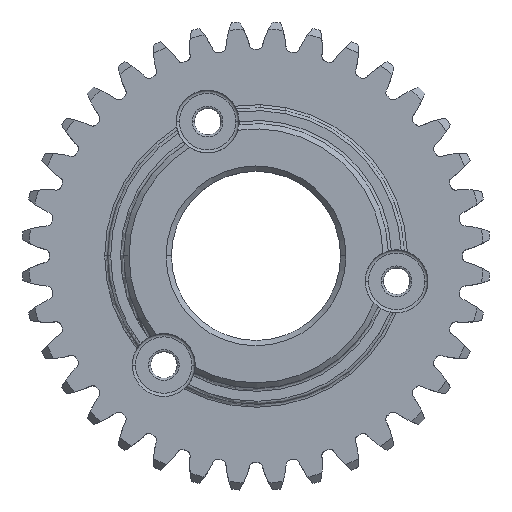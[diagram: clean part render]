
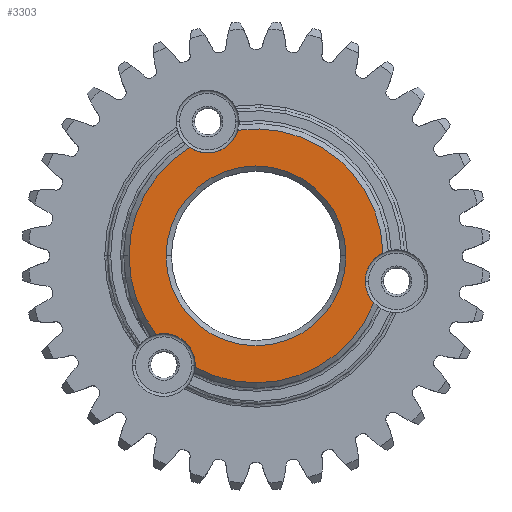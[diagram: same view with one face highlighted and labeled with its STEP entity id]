
A CAD part, top view. The second image highlights one B-rep face of the part: STEP entity #3303.
In plain terms, the highlighted planar face has unit normal (0, 0, 1).
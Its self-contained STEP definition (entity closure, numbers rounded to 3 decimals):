
#145 = CARTESIAN_POINT ( 'NONE',  ( 13.286, -2.393, 14. ) ) ;
#203 = DIRECTION ( 'NONE',  ( 1., 0., 0. ) ) ;
#295 = CIRCLE ( 'NONE', #3236, 2.97 ) ;
#572 = ORIENTED_EDGE ( 'NONE', *, *, #3615, .T. ) ;
#859 = DIRECTION ( 'NONE',  ( 1., 0., 0. ) ) ;
#1204 = CARTESIAN_POINT ( 'NONE',  ( 8.5, 0., 14. ) ) ;
#1549 = DIRECTION ( 'NONE',  ( 1., 0., 0. ) ) ;
#1596 = DIRECTION ( 'NONE',  ( 1., 0., 0. ) ) ;
#2346 = AXIS2_PLACEMENT_3D ( 'NONE', #3855, #12304, #8716 ) ;
#2402 = DIRECTION ( 'NONE',  ( 0., 0., 1. ) ) ;
#2424 = AXIS2_PLACEMENT_3D ( 'NONE', #10329, #11493, #8023 ) ;
#2507 = VERTEX_POINT ( 'NONE', #6823 ) ;
#2606 = CARTESIAN_POINT ( 'NONE',  ( 11.997, 0.281, 14. ) ) ;
#2630 = DIRECTION ( 'NONE',  ( 0., 0., -1. ) ) ;
#2869 = VERTEX_POINT ( 'NONE', #2606 ) ;
#2993 = CARTESIAN_POINT ( 'NONE',  ( 0., 0., 14. ) ) ;
#3236 = AXIS2_PLACEMENT_3D ( 'NONE', #145, #2402, #12114 ) ;
#3266 = DIRECTION ( 'NONE',  ( 0., 0., 1. ) ) ;
#3303 = ADVANCED_FACE ( 'NONE', ( #15495, #12283 ), #8876, .T. ) ;
#3325 = EDGE_CURVE ( 'NONE', #15564, #11358, #5836, .T. ) ;
#3530 = ORIENTED_EDGE ( 'NONE', *, *, #13022, .T. ) ;
#3615 = EDGE_CURVE ( 'NONE', #13140, #13195, #6601, .T. ) ;
#3855 = CARTESIAN_POINT ( 'NONE',  ( -8.716, -10.309, 14. ) ) ;
#3873 = VERTEX_POINT ( 'NONE', #6213 ) ;
#3893 = CARTESIAN_POINT ( 'NONE',  ( 13.286, -2.393, 14. ) ) ;
#3924 = DIRECTION ( 'NONE',  ( 1., 0., 0. ) ) ;
#4039 = ORIENTED_EDGE ( 'NONE', *, *, #7742, .F. ) ;
#4088 = AXIS2_PLACEMENT_3D ( 'NONE', #2993, #11294, #14974 ) ;
#4385 = DIRECTION ( 'NONE',  ( 1., 0., 0. ) ) ;
#4796 = CIRCLE ( 'NONE', #6790, 2.97 ) ;
#5089 = DIRECTION ( 'NONE',  ( 0., 0., 1. ) ) ;
#5199 = DIRECTION ( 'NONE',  ( 1., 0., 0. ) ) ;
#5603 = VERTEX_POINT ( 'NONE', #11488 ) ;
#5836 = CIRCLE ( 'NONE', #8084, 12. ) ;
#5960 = VERTEX_POINT ( 'NONE', #14640 ) ;
#6118 = CARTESIAN_POINT ( 'NONE',  ( 0., 0., 14. ) ) ;
#6156 = CIRCLE ( 'NONE', #2346, 2.97 ) ;
#6213 = CARTESIAN_POINT ( 'NONE',  ( -1.718, 11.876, 14. ) ) ;
#6250 = AXIS2_PLACEMENT_3D ( 'NONE', #7152, #8100, #859 ) ;
#6427 = AXIS2_PLACEMENT_3D ( 'NONE', #3893, #12335, #9684 ) ;
#6513 = ORIENTED_EDGE ( 'NONE', *, *, #7479, .T. ) ;
#6538 = ORIENTED_EDGE ( 'NONE', *, *, #3325, .T. ) ;
#6601 = CIRCLE ( 'NONE', #6250, 8.5 ) ;
#6679 = ORIENTED_EDGE ( 'NONE', *, *, #8728, .T. ) ;
#6790 = AXIS2_PLACEMENT_3D ( 'NONE', #6925, #3266, #4385 ) ;
#6823 = CARTESIAN_POINT ( 'NONE',  ( -12., 0., 14. ) ) ;
#6829 = ORIENTED_EDGE ( 'NONE', *, *, #11109, .F. ) ;
#6925 = CARTESIAN_POINT ( 'NONE',  ( -4.57, 12.703, 14. ) ) ;
#7152 = CARTESIAN_POINT ( 'NONE',  ( 0., 0., 14. ) ) ;
#7279 = AXIS2_PLACEMENT_3D ( 'NONE', #14929, #7678, #3924 ) ;
#7400 = VERTEX_POINT ( 'NONE', #13843 ) ;
#7470 = CIRCLE ( 'NONE', #15387, 2.97 ) ;
#7479 = EDGE_CURVE ( 'NONE', #2869, #3873, #15044, .T. ) ;
#7678 = DIRECTION ( 'NONE',  ( 0., 0., 1. ) ) ;
#7738 = CARTESIAN_POINT ( 'NONE',  ( -5.755, -10.53, 14. ) ) ;
#7742 = EDGE_CURVE ( 'NONE', #2869, #5960, #295, .T. ) ;
#8023 = DIRECTION ( 'NONE',  ( 1., 0., 0. ) ) ;
#8084 = AXIS2_PLACEMENT_3D ( 'NONE', #14976, #8832, #1596 ) ;
#8100 = DIRECTION ( 'NONE',  ( 0., 0., -1. ) ) ;
#8113 = AXIS2_PLACEMENT_3D ( 'NONE', #11255, #10050, #5199 ) ;
#8477 = EDGE_CURVE ( 'NONE', #5603, #3873, #4796, .T. ) ;
#8658 = ORIENTED_EDGE ( 'NONE', *, *, #12326, .F. ) ;
#8716 = DIRECTION ( 'NONE',  ( 1., 0., 0. ) ) ;
#8728 = EDGE_CURVE ( 'NONE', #2507, #7400, #10823, .T. ) ;
#8827 = VERTEX_POINT ( 'NONE', #11397 ) ;
#8832 = DIRECTION ( 'NONE',  ( 0., 0., 1. ) ) ;
#8876 = PLANE ( 'NONE',  #7279 ) ;
#9568 = ORIENTED_EDGE ( 'NONE', *, *, #12838, .T. ) ;
#9585 = EDGE_CURVE ( 'NONE', #8827, #7400, #6156, .T. ) ;
#9684 = DIRECTION ( 'NONE',  ( 1., 0., 0. ) ) ;
#9989 = ORIENTED_EDGE ( 'NONE', *, *, #9585, .F. ) ;
#10022 = AXIS2_PLACEMENT_3D ( 'NONE', #6118, #2630, #203 ) ;
#10050 = DIRECTION ( 'NONE',  ( 0., 0., 1. ) ) ;
#10329 = CARTESIAN_POINT ( 'NONE',  ( 0., 0., 14. ) ) ;
#10381 = CARTESIAN_POINT ( 'NONE',  ( 11.144, -4.45, 14. ) ) ;
#10405 = EDGE_LOOP ( 'NONE', ( #4039, #6513, #13851, #3530, #6679, #9989, #8658, #6538, #6829 ) ) ;
#10823 = CIRCLE ( 'NONE', #8113, 12. ) ;
#10854 = CARTESIAN_POINT ( 'NONE',  ( -8.5, 0., 14. ) ) ;
#11109 = EDGE_CURVE ( 'NONE', #5960, #11358, #13721, .T. ) ;
#11159 = EDGE_LOOP ( 'NONE', ( #572, #9568 ) ) ;
#11255 = CARTESIAN_POINT ( 'NONE',  ( 0., 0., 14. ) ) ;
#11294 = DIRECTION ( 'NONE',  ( 0., 0., 1. ) ) ;
#11358 = VERTEX_POINT ( 'NONE', #10381 ) ;
#11397 = CARTESIAN_POINT ( 'NONE',  ( -5.746, -10.309, 14. ) ) ;
#11488 = CARTESIAN_POINT ( 'NONE',  ( -6.242, 10.249, 14. ) ) ;
#11493 = DIRECTION ( 'NONE',  ( 0., 0., 1. ) ) ;
#11581 = CIRCLE ( 'NONE', #10022, 8.5 ) ;
#12114 = DIRECTION ( 'NONE',  ( 1., 0., 0. ) ) ;
#12283 = FACE_OUTER_BOUND ( 'NONE', #10405, .T. ) ;
#12304 = DIRECTION ( 'NONE',  ( 0., 0., 1. ) ) ;
#12326 = EDGE_CURVE ( 'NONE', #15564, #8827, #7470, .T. ) ;
#12335 = DIRECTION ( 'NONE',  ( 0., 0., 1. ) ) ;
#12838 = EDGE_CURVE ( 'NONE', #13195, #13140, #11581, .T. ) ;
#13022 = EDGE_CURVE ( 'NONE', #5603, #2507, #13872, .T. ) ;
#13140 = VERTEX_POINT ( 'NONE', #1204 ) ;
#13195 = VERTEX_POINT ( 'NONE', #10854 ) ;
#13721 = CIRCLE ( 'NONE', #6427, 2.97 ) ;
#13843 = CARTESIAN_POINT ( 'NONE',  ( -9.426, -7.426, 14. ) ) ;
#13851 = ORIENTED_EDGE ( 'NONE', *, *, #8477, .F. ) ;
#13872 = CIRCLE ( 'NONE', #2424, 12. ) ;
#14640 = CARTESIAN_POINT ( 'NONE',  ( 10.317, -2.393, 14. ) ) ;
#14775 = CARTESIAN_POINT ( 'NONE',  ( -8.716, -10.309, 14. ) ) ;
#14929 = CARTESIAN_POINT ( 'NONE',  ( 0., 0., 14. ) ) ;
#14974 = DIRECTION ( 'NONE',  ( 1., 0., 0. ) ) ;
#14976 = CARTESIAN_POINT ( 'NONE',  ( 0., 0., 14. ) ) ;
#15044 = CIRCLE ( 'NONE', #4088, 12. ) ;
#15387 = AXIS2_PLACEMENT_3D ( 'NONE', #14775, #5089, #1549 ) ;
#15495 = FACE_BOUND ( 'NONE', #11159, .T. ) ;
#15564 = VERTEX_POINT ( 'NONE', #7738 ) ;
